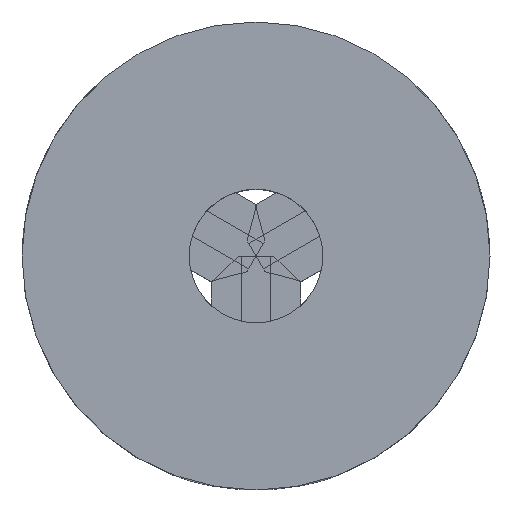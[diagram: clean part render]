
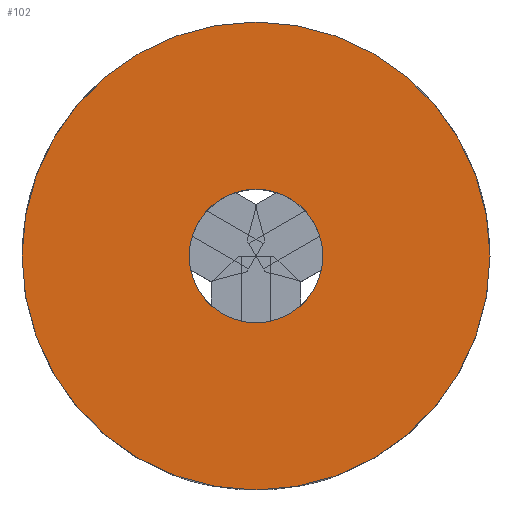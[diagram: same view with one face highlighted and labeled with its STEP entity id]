
A CAD part, top view. The second image highlights one B-rep face of the part: STEP entity #102.
In plain terms, the highlighted planar face has unit normal (0, 0, 1).
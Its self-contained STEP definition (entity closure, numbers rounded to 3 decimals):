
#61=CARTESIAN_POINT('Axis2P3D Location',(0.,0.,90.)) ;
#66=CARTESIAN_POINT('Axis2P3D Location',(0.,0.,90.)) ;
#70=CARTESIAN_POINT('Vertex',(105.,0.,90.)) ;
#72=CARTESIAN_POINT('Vertex',(-105.,0.,90.)) ;
#75=CARTESIAN_POINT('Axis2P3D Location',(0.,0.,90.)) ;
#84=CARTESIAN_POINT('Axis2P3D Location',(0.,0.,90.)) ;
#88=CARTESIAN_POINT('Vertex',(30.,0.,90.)) ;
#90=CARTESIAN_POINT('Vertex',(-30.,0.,90.)) ;
#93=CARTESIAN_POINT('Axis2P3D Location',(0.,0.,90.)) ;
#62=DIRECTION('Axis2P3D Direction',(0.,0.,1.)) ;
#63=DIRECTION('Axis2P3D XDirection',(1.,0.,0.)) ;
#67=DIRECTION('Axis2P3D Direction',(0.,0.,1.)) ;
#76=DIRECTION('Axis2P3D Direction',(0.,0.,1.)) ;
#85=DIRECTION('Axis2P3D Direction',(0.,0.,1.)) ;
#94=DIRECTION('Axis2P3D Direction',(0.,0.,1.)) ;
#64=AXIS2_PLACEMENT_3D('Plane Axis2P3D',#61,#62,#63) ;
#68=AXIS2_PLACEMENT_3D('Circle Axis2P3D',#66,#67,$) ;
#77=AXIS2_PLACEMENT_3D('Circle Axis2P3D',#75,#76,$) ;
#86=AXIS2_PLACEMENT_3D('Circle Axis2P3D',#84,#85,$) ;
#95=AXIS2_PLACEMENT_3D('Circle Axis2P3D',#93,#94,$) ;
#81=ORIENTED_EDGE('',*,*,#74,.T.) ;
#82=ORIENTED_EDGE('',*,*,#79,.T.) ;
#99=ORIENTED_EDGE('',*,*,#92,.F.) ;
#100=ORIENTED_EDGE('',*,*,#97,.F.) ;
#101=FACE_BOUND('',#98,.T.) ;
#102=ADVANCED_FACE('Corps principal',(#83,#101),#65,.T.) ;
#69=CIRCLE('generated circle',#68,105.) ;
#78=CIRCLE('generated circle',#77,105.) ;
#87=CIRCLE('generated circle',#86,30.) ;
#96=CIRCLE('generated circle',#95,30.) ;
#74=EDGE_CURVE('',#71,#73,#69,.T.) ;
#79=EDGE_CURVE('',#73,#71,#78,.T.) ;
#92=EDGE_CURVE('',#89,#91,#87,.T.) ;
#97=EDGE_CURVE('',#91,#89,#96,.T.) ;
#80=EDGE_LOOP('',(#81,#82)) ;
#98=EDGE_LOOP('',(#99,#100)) ;
#83=FACE_OUTER_BOUND('',#80,.T.) ;
#65=PLANE('Plane',#64) ;
#71=VERTEX_POINT('',#70) ;
#73=VERTEX_POINT('',#72) ;
#89=VERTEX_POINT('',#88) ;
#91=VERTEX_POINT('',#90) ;
